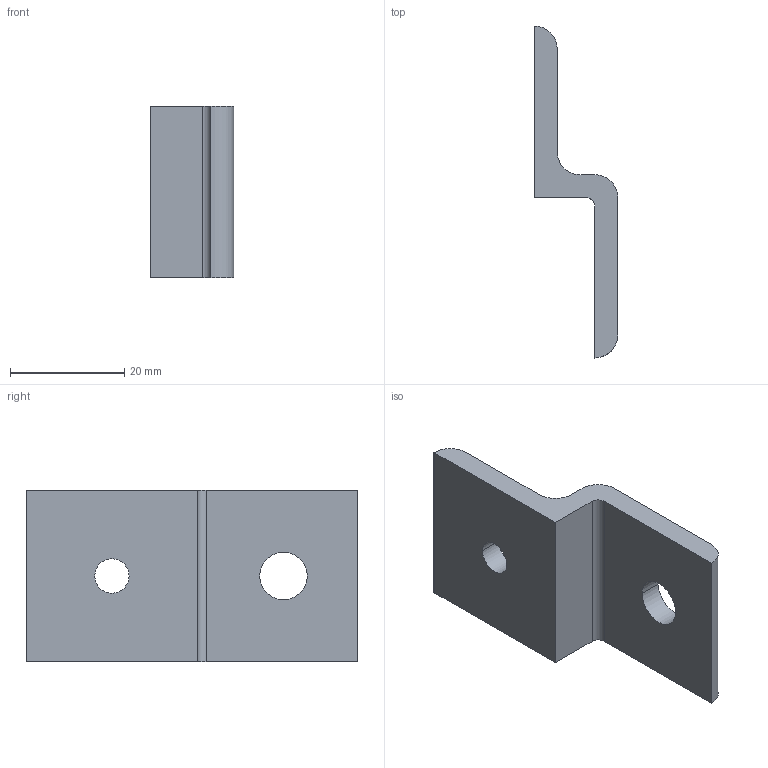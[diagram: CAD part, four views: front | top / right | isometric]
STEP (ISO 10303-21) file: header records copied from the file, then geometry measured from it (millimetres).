
FILE_DESCRIPTION (( 'STEP AP214' ), '1' );
FILE_NAME ('7146.STEP', '2019-03-13T09:05:29', ( '' ), ( '' ), 'SwSTEP 2.0', 'SolidWorks 2014', '' );
FILE_SCHEMA (( 'AUTOMOTIVE_DESIGN' ));
Length unit declared in the file: millimetre
Products named in the file (2): 7146
Bounding box: 14.6 x 58 x 30 mm (x, y, z)
Volume: 7712 mm3; surface area: 4682.2 mm2
Topology: 1 solids, 1 shells, 19 faces, 51 edges, 34 vertices
Faces by surface type: plane 10, cylinder 9
Entity records: 660 total; most frequent: DIRECTION 111, CARTESIAN_POINT 106, ORIENTED_EDGE 102, EDGE_CURVE 51, AXIS2_PLACEMENT_3D 39, VERTEX_POINT 34, VECTOR 33, LINE 33
